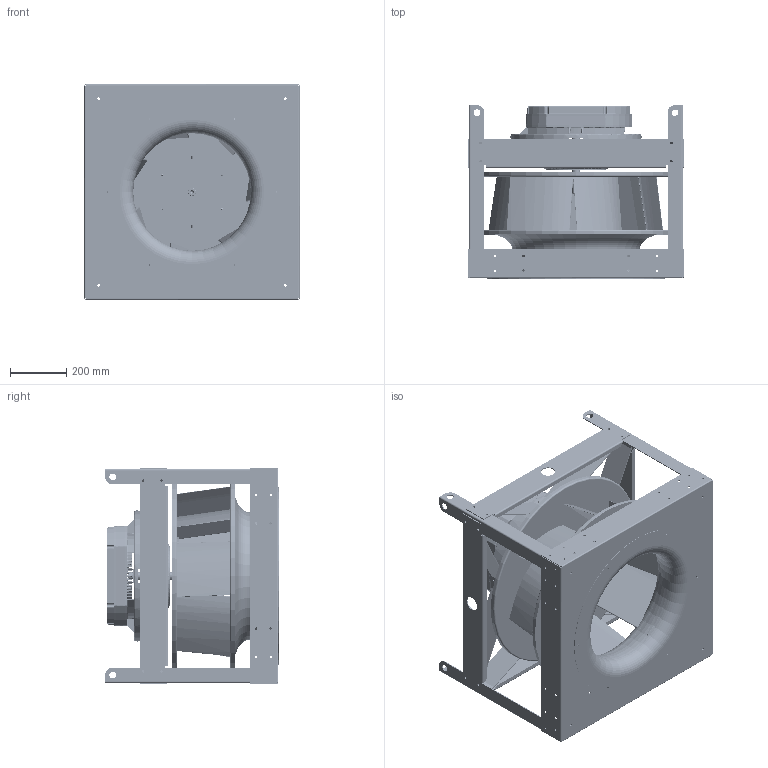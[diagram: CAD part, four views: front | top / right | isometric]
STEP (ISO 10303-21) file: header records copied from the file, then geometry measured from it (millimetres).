
FILE_DESCRIPTION (( 'STEP AP214' ), '1' );
FILE_NAME ('655788.STEP', '2026-06-10T18:51:52', ( '' ), ( '' ), 'SwSTEP 2.0', 'SolidWorks 2023', '' );
FILE_SCHEMA (( 'AUTOMOTIVE_DESIGN' ));
Length unit declared in the file: inch
Products named in the file (8): 768039CS_768039CS; 925770CS_925770CS; 651577_651577; 651555_651555; 768051CS_768051CS; 651557_651557; 655788; SXPI STRAP_651578
Assembly tree (16 placements, depth 2):
  655788
    651555_651555
    651557_651557  x4
    651577_651577  x4
    SXPI STRAP_651578  x4
    925770CS_925770CS
    768039CS_768039CS
    768051CS_768051CS
Bounding box: 766.15 x 615.91 x 766.15 mm (x, y, z)
Volume: 16334451.5 mm3; surface area: 8651606.5 mm2
Topology: 45 solids, 45 shells, 11309 faces, 27328 edges, 15790 vertices
Faces by surface type: bspline 3374, cylinder 2977, plane 1997, torus 1445, cone 1132, sphere 384
Full cylindrical faces by diameter (mm): 5.156 x6, 7.137 x48, 7.544 x1, 8.738 x84, 25.4 x8, 50.8 x4, 571.5 x1
Entity records: 440679 total; most frequent: CARTESIAN_POINT 209742, ORIENTED_EDGE 51856, DIRECTION 43768, EDGE_CURVE 25928, AXIS2_PLACEMENT_3D 18208, VERTEX_POINT 15320, EDGE_LOOP 11876, FACE_OUTER_BOUND 11101
